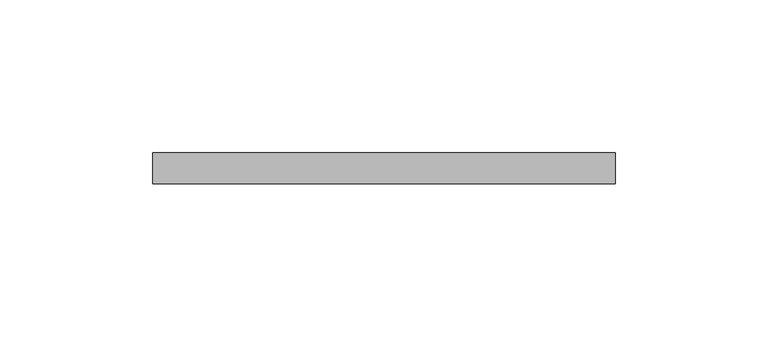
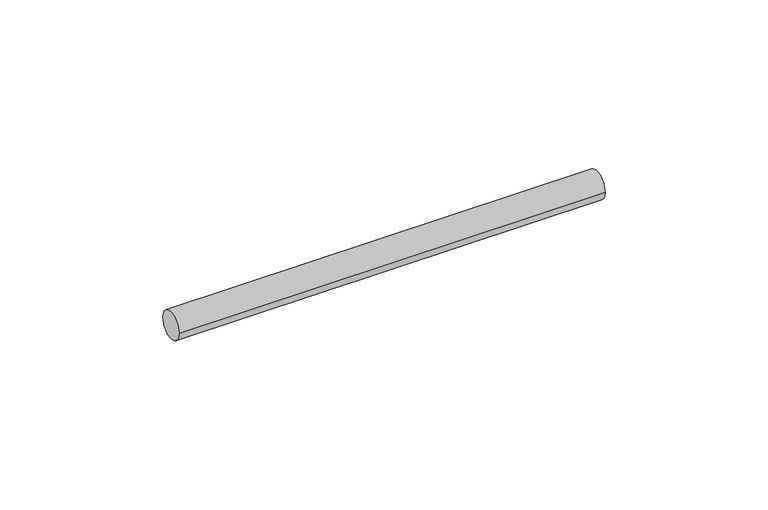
"""IFC4 building model written with IfcOpenShell, lengths in millimetres: valve geometry, Superfix Threaded Rod (used for clamps) : Threaded Rod - 1000 mm (used for clamps)."""

import ifcopenshell
import ifcopenshell.guid

model = None  # the IFC model being written
_history = None  # IfcOwnerHistory: only IFC2X3 demands one
_inside = {}  # id of a spatial element -> (the spatial element, [elements in it])
_under = {}  # id of a project, library or spatial element -> (it, [spatial elements below it])
_declared = {}  # id of a project -> (the project, [libraries it declares])
_typed = {}  # id of a type object -> (the type object, [elements of that type])
_made_of = {}  # id of a material, layer set ... -> (it, [elements and type objects made of it])


def new_model(schema):
    """Start an empty IFC model of exactly this schema.

    Asked for "IFC4X3", IfcOpenShell would pick the latest addendum, in which some entities
    have other attributes; the version numbers below select the first issue.
    IFC2X3 requires an IfcOwnerHistory on every rooted entity: one is made here for all.
    """
    global model, _history
    if schema == "IFC4X3":
        model = ifcopenshell.file(schema_version=(4, 3, 0, 0))
    else:
        model = ifcopenshell.file(schema=schema)
    _inside.clear()
    _under.clear()
    _declared.clear()
    _typed.clear()
    _made_of.clear()
    _history = None
    if model.schema == "IFC2X3":
        org = make("IfcOrganization", Name="unknown")
        user = make(
            "IfcPersonAndOrganization",
            ThePerson=make("IfcPerson", FamilyName="unknown"),
            TheOrganization=org,
        )
        app = make(
            "IfcApplication",
            ApplicationDeveloper=org,
            Version="unknown",
            ApplicationFullName="unknown",
            ApplicationIdentifier="unknown",
        )
        _history = make(
            "IfcOwnerHistory",
            OwningUser=user,
            OwningApplication=app,
            ChangeAction="ADDED",
            CreationDate=0,
        )
    return model


def make(cls, **values):
    """One entity of the class cls with the attributes given. An attribute that is None is left unset."""
    return model.create_entity(
        cls, **{name: value for name, value in values.items() if value is not None}
    )


def rooted(cls, **values):
    """An entity with a GlobalId (a new one), such as an element, a storey or a relation."""
    return make(cls, GlobalId=ifcopenshell.guid.new(), OwnerHistory=_history, **values)


def si_unit(unit_type, name, prefix=None):
    """IfcSIUnit, for example si_unit("LENGTHUNIT", "METRE", prefix="MILLI")."""
    return make("IfcSIUnit", UnitType=unit_type, Prefix=prefix, Name=name)


def assignment(units):
    """IfcUnitAssignment: the units of a project."""
    return None if units is None else make("IfcUnitAssignment", Units=units)


def point(xyz):
    """IfcCartesianPoint."""
    return None if xyz is None else make("IfcCartesianPoint", Coordinates=xyz)


def direction(xyz):
    """IfcDirection."""
    return None if xyz is None else make("IfcDirection", DirectionRatios=xyz)


def frame(location, z_axis=None, x_axis=None):
    """IfcAxis2Placement3D, a coordinate frame: its origin and axes. An axis left out is left unset."""
    return make(
        "IfcAxis2Placement3D",
        Location=point(location),
        Axis=direction(z_axis),
        RefDirection=direction(x_axis),
    )


def frame_2d(location, x_axis=None):
    """IfcAxis2Placement2D, a coordinate frame in the plane: its origin and x axis."""
    return make(
        "IfcAxis2Placement2D", Location=point(location), RefDirection=direction(x_axis)
    )


def origin():
    """The frame at (0, 0, 0) with its axes left unset."""
    return frame((0.0, 0.0, 0.0))


def origin_2d():
    """The frame at (0, 0) in the plane with its x axis left unset."""
    return frame_2d((0.0, 0.0))


def place(relative_to, where):
    """IfcLocalPlacement: puts the frame where relative to a parent placement (None: the world)."""
    return make(
        "IfcLocalPlacement", PlacementRelTo=relative_to, RelativePlacement=where
    )


def context(
    kind, dimensions, precision=None, world=None, true_north=None, identifier=None
):
    """IfcGeometricRepresentationContext, for example the 3D "Model" context."""
    return make(
        "IfcGeometricRepresentationContext",
        ContextIdentifier=identifier,
        ContextType=kind,
        CoordinateSpaceDimension=dimensions,
        Precision=precision,
        WorldCoordinateSystem=world,
        TrueNorth=true_north,
    )


def project(units=None, contexts=None):
    """IfcProject with its units and contexts."""
    return rooted(
        "IfcProject",
        Name="project",
        RepresentationContexts=contexts,
        UnitsInContext=assignment(units),
    )


def spatial(cls, under=None, at=None, **own):
    """A site, building, storey or space (cls), placed at a placement, below another one or the project."""
    s = rooted(cls, ObjectPlacement=at, **own)
    if under is not None:
        _under.setdefault(under.id(), (under, []))[1].append(s)
    return s


def circle_curve(where, radius):
    """IfcCircle in the frame where."""
    return make("IfcCircle", Position=where, Radius=radius)


def trimmed(basis, trim1, trim2, sense, master):
    """IfcTrimmedCurve: the piece of a basis curve between two trims."""
    return make(
        "IfcTrimmedCurve",
        BasisCurve=basis,
        Trim1=trim1,
        Trim2=trim2,
        SenseAgreement=sense,
        MasterRepresentation=master,
    )


def segment(curve, same_sense, transition):
    """IfcCompositeCurveSegment."""
    return make(
        "IfcCompositeCurveSegment",
        Transition=transition,
        SameSense=same_sense,
        ParentCurve=curve,
    )


def composite_curve(segments, self_intersect=None):
    """IfcCompositeCurve: segments joined end to end."""
    return make("IfcCompositeCurve", Segments=segments, SelfIntersect=self_intersect)


def outline(outer, holes=None, kind="AREA"):
    """IfcArbitraryClosedProfileDef: a profile drawn as a closed curve; with holes, ...WithVoids."""
    if holes is None:
        return make("IfcArbitraryClosedProfileDef", ProfileType=kind, OuterCurve=outer)
    return make(
        "IfcArbitraryProfileDefWithVoids",
        ProfileType=kind,
        OuterCurve=outer,
        InnerCurves=holes,
    )


def extrude(swept, where, along, depth):
    """IfcExtrudedAreaSolid: the profile swept, set in the frame where, extruded along a direction by depth."""
    return make(
        "IfcExtrudedAreaSolid",
        SweptArea=swept,
        Position=where,
        ExtrudedDirection=direction(along),
        Depth=depth,
    )


def shape(context_of_items, identifier, shape_type, items):
    """IfcShapeRepresentation: the items that make up one representation, for example the "Body"."""
    return make(
        "IfcShapeRepresentation",
        ContextOfItems=context_of_items,
        RepresentationIdentifier=identifier,
        RepresentationType=shape_type,
        Items=items,
    )


def source(mapping_origin, context_of_items, identifier, shape_type, items):
    """IfcRepresentationMap: a shape defined once, which mapped items show again and again."""
    return make(
        "IfcRepresentationMap",
        MappingOrigin=mapping_origin,
        MappedRepresentation=shape(context_of_items, identifier, shape_type, items),
    )


def transform(
    local_origin,
    x_axis=None,
    y_axis=None,
    z_axis=None,
    scale=None,
    scale2=None,
    scale3=None,
    uniform=True,
):
    """IfcCartesianTransformationOperator3D, or its non-uniform kind. x_axis, y_axis, z_axis: its Axis1, 2, 3."""
    if uniform:
        return make(
            "IfcCartesianTransformationOperator3D",
            Axis1=direction(x_axis),
            Axis2=direction(y_axis),
            LocalOrigin=point(local_origin),
            Scale=scale,
            Axis3=direction(z_axis),
        )
    return make(
        "IfcCartesianTransformationOperator3DnonUniform",
        Axis1=direction(x_axis),
        Axis2=direction(y_axis),
        LocalOrigin=point(local_origin),
        Scale=scale,
        Axis3=direction(z_axis),
        Scale2=scale2,
        Scale3=scale3,
    )


def mapped(mapping_source, mapping_target):
    """IfcMappedItem: shows the shape of a source again, moved by a transform."""
    return make(
        "IfcMappedItem", MappingSource=mapping_source, MappingTarget=mapping_target
    )


def made_of(thing, what):
    """Note that an element or type object is made of a material, layer set ...; save() writes the relation."""
    if what is not None:
        _made_of.setdefault(what.id(), (what, []))[1].append(thing)
    return thing


def element(
    cls,
    number,
    at=None,
    inside=None,
    cuts=None,
    type_object=None,
    material=None,
    context=None,
    identifier="Body",
    shape_type=None,
    held_by="IfcProductDefinitionShape",
    body=None,
    shapes=None,
    **own,
):
    """One element of the class cls, such as IfcWall. Its Tag is "e" and its number.

    at: its placement. inside: the storey or other place that contains it. cuts: it is an
    opening in that element (IfcRelVoidsElement). A single representation is given by context,
    identifier, shape_type and body (its items); several are given by shapes. held_by: the class
    of the entity that holds the representations. save() writes the other relations.
    """
    e = rooted(cls, Tag="e%d" % number, ObjectPlacement=at, **own)
    if body is not None:
        shapes = [shape(context, identifier, shape_type, body)]
    if shapes is not None:
        e.Representation = make(held_by, Representations=shapes)
    if inside is not None:
        _inside.setdefault(inside.id(), (inside, []))[1].append(e)
    if cuts is not None:
        rooted(
            "IfcRelVoidsElement", RelatingBuildingElement=cuts, RelatedOpeningElement=e
        )
    if type_object is not None:
        _typed.setdefault(type_object.id(), (type_object, []))[1].append(e)
    return made_of(e, material)


def aggregate(whole, parts):
    """IfcRelAggregates: a whole, such as a stair, and the parts it consists of."""
    return rooted("IfcRelAggregates", RelatingObject=whole, RelatedObjects=parts)


def save(model, path):
    """Write the relations noted so far, then the file.

    IfcRelAggregates (storeys below a building ...), IfcRelContainedInSpatialStructure (elements
    in a storey), IfcRelDefinesByType, IfcRelAssociatesMaterial and IfcRelDeclares: one each for
    every whole, place, type object, material and project.
    """
    for whole, parts in _under.values():
        aggregate(whole, parts)
    for where, things in _inside.values():
        rooted(
            "IfcRelContainedInSpatialStructure",
            RelatedElements=things,
            RelatingStructure=where,
        )
    for kind, things in _typed.values():
        rooted("IfcRelDefinesByType", RelatedObjects=things, RelatingType=kind)
    for what, things in _made_of.values():
        rooted("IfcRelAssociatesMaterial", RelatedObjects=things, RelatingMaterial=what)
    for by, libraries in _declared.values():
        rooted("IfcRelDeclares", RelatingContext=by, RelatedDefinitions=libraries)
    model.write(path)


def valve_3ecbcef6(model_context):
    return source(origin(), model_context, "Body", "SweptSolid", [
        extrude(outline(composite_curve([segment(trimmed(circle_curve(origin_2d(), 5.0), [point((-5.0, 0.0))], [point((5.0, 0.0))], False, "CARTESIAN"), True, "CONTINUOUS"), segment(trimmed(circle_curve(origin_2d(), 5.0), [point((5.0, 0.0))], [point((-5.0, 0.0))], False, "CARTESIAN"), True, "CONTINUOUS")], self_intersect=False)), frame((-10.0, 0.0, 0.0), z_axis=(1.0, 0.0, 0.0), x_axis=(0.0, 1.0, 0.0)), (0.0, 0.0, 1.0), 151.0),
    ])


if __name__ == "__main__":
    model = new_model("IFC4")
    model_context = context("Model", 3, world=origin())
    ifc_project = project(units=[si_unit("LENGTHUNIT", "METRE", prefix="MILLI")], contexts=[model_context])
    site = spatial("IfcSite", under=ifc_project)
    building = spatial("IfcBuilding", under=site)
    placement = place(None, origin())
    valve_shape = valve_3ecbcef6(model_context)
    element("IfcValve", 1, ObjectType="Superfix Threaded Rod (used for clamps) : Threaded Rod - 1000 mm (used for clamps)", at=placement, inside=building, context=model_context, shape_type="MappedRepresentation", body=[
        mapped(valve_shape, transform((0.0, 0.0, 0.0), x_axis=(1.0, 0.0, 0.0), y_axis=(0.0, 1.0, 0.0), z_axis=(0.0, 0.0, 1.0))),
    ])
    save(model, "model.ifc")
